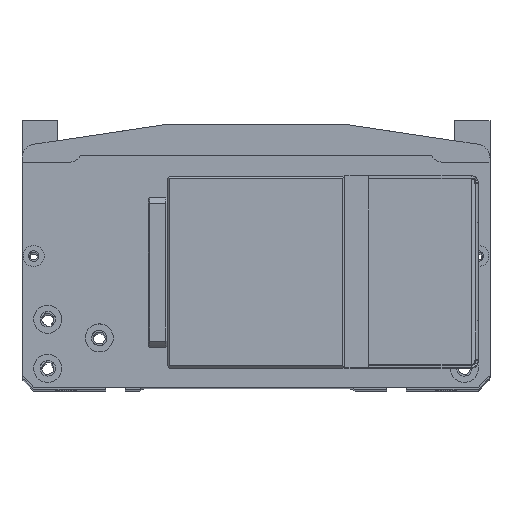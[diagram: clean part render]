
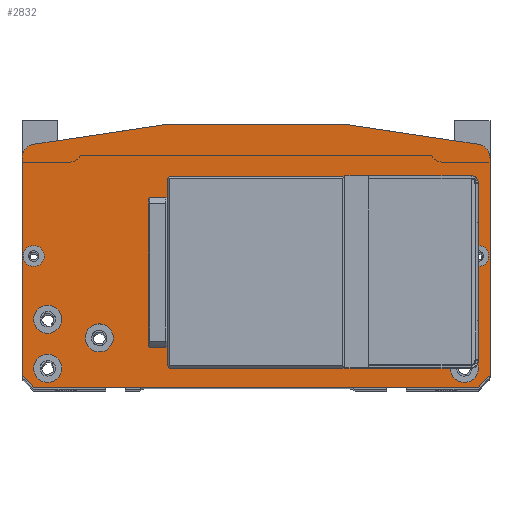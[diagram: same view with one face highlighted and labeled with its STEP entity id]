
A CAD part, top view. The second image highlights one B-rep face of the part: STEP entity #2832.
In plain terms, the highlighted planar face has unit normal (0, 0, 1).
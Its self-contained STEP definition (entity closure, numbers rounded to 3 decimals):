
#568=FACE_BOUND('',#5105,.T.);
#569=FACE_BOUND('',#5106,.T.);
#570=FACE_BOUND('',#5107,.T.);
#571=FACE_BOUND('',#5108,.T.);
#572=FACE_BOUND('',#5109,.T.);
#573=FACE_BOUND('',#5110,.T.);
#574=FACE_BOUND('',#5111,.T.);
#575=FACE_BOUND('',#5112,.T.);
#576=FACE_BOUND('',#5113,.T.);
#577=FACE_BOUND('',#5114,.T.);
#578=FACE_BOUND('',#5115,.T.);
#579=FACE_BOUND('',#5116,.T.);
#580=FACE_BOUND('',#5117,.T.);
#1193=PLANE('',#18530);
#1862=CIRCLE('',#18412,1.65);
#1877=CIRCLE('',#18441,1.65);
#1882=CIRCLE('',#18455,6.);
#1889=CIRCLE('',#18469,6.);
#1890=CIRCLE('',#18472,4.5);
#1894=CIRCLE('',#18479,4.5);
#1898=CIRCLE('',#18486,6.);
#1902=CIRCLE('',#18493,6.);
#1906=CIRCLE('',#18500,6.);
#1910=CIRCLE('',#18507,6.);
#1914=CIRCLE('',#18514,6.);
#1918=CIRCLE('',#18521,6.);
#2832=ADVANCED_FACE('',(#568,#569,#570,#571,#572,#573,#574,#575,#576,#577,
#578,#579,#580),#1193,.F.);
#5105=EDGE_LOOP('',(#11488,#11489,#11490,#11491));
#5106=EDGE_LOOP('',(#11492,#11493,#11494,#11495));
#5107=EDGE_LOOP('',(#11496));
#5108=EDGE_LOOP('',(#11497));
#5109=EDGE_LOOP('',(#11498,#11499,#11500,#11501,#11502,#11503,#11504,#11505,
#11506,#11507));
#5110=EDGE_LOOP('',(#11508));
#5111=EDGE_LOOP('',(#11509));
#5112=EDGE_LOOP('',(#11510));
#5113=EDGE_LOOP('',(#11511));
#5114=EDGE_LOOP('',(#11512));
#5115=EDGE_LOOP('',(#11513));
#5116=EDGE_LOOP('',(#11514));
#5117=EDGE_LOOP('',(#11515));
#5767=LINE('',#25142,#7140);
#5960=LINE('',#26042,#7333);
#5980=LINE('',#26087,#7353);
#6585=LINE('',#30103,#7958);
#6589=LINE('',#30111,#7962);
#6592=LINE('',#30117,#7965);
#6612=LINE('',#30153,#7985);
#6632=LINE('',#30325,#8005);
#6634=LINE('',#30328,#8007);
#6640=LINE('',#30341,#8013);
#6643=LINE('',#30347,#8016);
#6656=LINE('',#30383,#8029);
#6658=LINE('',#30468,#8031);
#6659=LINE('',#30471,#8032);
#6660=LINE('',#30473,#8033);
#6661=LINE('',#30475,#8034);
#7140=VECTOR('',#19644,1.);
#7333=VECTOR('',#20077,1.);
#7353=VECTOR('',#20127,1.);
#7958=VECTOR('',#22180,1.);
#7962=VECTOR('',#22186,1.);
#7965=VECTOR('',#22191,1.);
#7985=VECTOR('',#22223,1.);
#8005=VECTOR('',#22439,1.);
#8007=VECTOR('',#22443,1.);
#8013=VECTOR('',#22451,1.);
#8016=VECTOR('',#22456,1.);
#8029=VECTOR('',#22503,1.);
#8031=VECTOR('',#22623,1.);
#8032=VECTOR('',#22624,1.);
#8033=VECTOR('',#22625,1.);
#8034=VECTOR('',#22626,1.);
#11488=ORIENTED_EDGE('',*,*,#16548,.F.);
#11489=ORIENTED_EDGE('',*,*,#16549,.F.);
#11490=ORIENTED_EDGE('',*,*,#16550,.T.);
#11491=ORIENTED_EDGE('',*,*,#16551,.T.);
#11492=ORIENTED_EDGE('',*,*,#16391,.T.);
#11493=ORIENTED_EDGE('',*,*,#16394,.T.);
#11494=ORIENTED_EDGE('',*,*,#16414,.T.);
#11495=ORIENTED_EDGE('',*,*,#16387,.T.);
#11496=ORIENTED_EDGE('',*,*,#16449,.T.);
#11497=ORIENTED_EDGE('',*,*,#16477,.T.);
#11498=ORIENTED_EDGE('',*,*,#16482,.F.);
#11499=ORIENTED_EDGE('',*,*,#15324,.T.);
#11500=ORIENTED_EDGE('',*,*,#16514,.F.);
#11501=ORIENTED_EDGE('',*,*,#15348,.T.);
#11502=ORIENTED_EDGE('',*,*,#16513,.F.);
#11503=ORIENTED_EDGE('',*,*,#16484,.F.);
#11504=ORIENTED_EDGE('',*,*,#16490,.T.);
#11505=ORIENTED_EDGE('',*,*,#16493,.F.);
#11506=ORIENTED_EDGE('',*,*,#16494,.F.);
#11507=ORIENTED_EDGE('',*,*,#15065,.T.);
#11508=ORIENTED_EDGE('',*,*,#16544,.T.);
#11509=ORIENTED_EDGE('',*,*,#16540,.T.);
#11510=ORIENTED_EDGE('',*,*,#16536,.T.);
#11511=ORIENTED_EDGE('',*,*,#16532,.T.);
#11512=ORIENTED_EDGE('',*,*,#16528,.T.);
#11513=ORIENTED_EDGE('',*,*,#16524,.T.);
#11514=ORIENTED_EDGE('',*,*,#16520,.T.);
#11515=ORIENTED_EDGE('',*,*,#16516,.T.);
#13371=VERTEX_POINT('',#25141);
#13372=VERTEX_POINT('',#25143);
#13536=VERTEX_POINT('',#26041);
#13537=VERTEX_POINT('',#26043);
#13546=VERTEX_POINT('',#26086);
#13547=VERTEX_POINT('',#26088);
#14229=VERTEX_POINT('',#30093);
#14233=VERTEX_POINT('',#30102);
#14236=VERTEX_POINT('',#30110);
#14238=VERTEX_POINT('',#30116);
#14279=VERTEX_POINT('',#30250);
#14296=VERTEX_POINT('',#30309);
#14303=VERTEX_POINT('',#30329);
#14304=VERTEX_POINT('',#30330);
#14308=VERTEX_POINT('',#30340);
#14310=VERTEX_POINT('',#30346);
#14317=VERTEX_POINT('',#30387);
#14320=VERTEX_POINT('',#30397);
#14323=VERTEX_POINT('',#30407);
#14326=VERTEX_POINT('',#30417);
#14329=VERTEX_POINT('',#30427);
#14332=VERTEX_POINT('',#30437);
#14335=VERTEX_POINT('',#30447);
#14338=VERTEX_POINT('',#30457);
#14341=VERTEX_POINT('',#30469);
#14342=VERTEX_POINT('',#30470);
#14343=VERTEX_POINT('',#30472);
#14344=VERTEX_POINT('',#30474);
#15065=EDGE_CURVE('',#13372,#13371,#5767,.T.);
#15324=EDGE_CURVE('',#13537,#13536,#5960,.T.);
#15348=EDGE_CURVE('',#13547,#13546,#5980,.T.);
#16387=EDGE_CURVE('',#14229,#14233,#6585,.T.);
#16391=EDGE_CURVE('',#14233,#14236,#6589,.T.);
#16394=EDGE_CURVE('',#14236,#14238,#6592,.T.);
#16414=EDGE_CURVE('',#14238,#14229,#6612,.T.);
#16449=EDGE_CURVE('',#14279,#14279,#1862,.T.);
#16477=EDGE_CURVE('',#14296,#14296,#1877,.T.);
#16482=EDGE_CURVE('',#13537,#13371,#6632,.T.);
#16484=EDGE_CURVE('',#14303,#14304,#6634,.T.);
#16490=EDGE_CURVE('',#14303,#14308,#6640,.T.);
#16493=EDGE_CURVE('',#14310,#14308,#6643,.T.);
#16494=EDGE_CURVE('',#13372,#14310,#1882,.T.);
#16513=EDGE_CURVE('',#14304,#13546,#1889,.T.);
#16514=EDGE_CURVE('',#13547,#13536,#6656,.T.);
#16516=EDGE_CURVE('',#14317,#14317,#1890,.T.);
#16520=EDGE_CURVE('',#14320,#14320,#1894,.T.);
#16524=EDGE_CURVE('',#14323,#14323,#1898,.T.);
#16528=EDGE_CURVE('',#14326,#14326,#1902,.T.);
#16532=EDGE_CURVE('',#14329,#14329,#1906,.T.);
#16536=EDGE_CURVE('',#14332,#14332,#1910,.T.);
#16540=EDGE_CURVE('',#14335,#14335,#1914,.T.);
#16544=EDGE_CURVE('',#14338,#14338,#1918,.T.);
#16548=EDGE_CURVE('',#14341,#14342,#6658,.T.);
#16549=EDGE_CURVE('',#14343,#14341,#6659,.T.);
#16550=EDGE_CURVE('',#14343,#14344,#6660,.T.);
#16551=EDGE_CURVE('',#14344,#14342,#6661,.T.);
#18412=AXIS2_PLACEMENT_3D('',#30249,#22348,#22349);
#18441=AXIS2_PLACEMENT_3D('',#30308,#22419,#22420);
#18455=AXIS2_PLACEMENT_3D('',#30349,#22459,#22460);
#18469=AXIS2_PLACEMENT_3D('',#30381,#22499,#22500);
#18472=AXIS2_PLACEMENT_3D('',#30386,#22507,#22508);
#18479=AXIS2_PLACEMENT_3D('',#30396,#22521,#22522);
#18486=AXIS2_PLACEMENT_3D('',#30406,#22535,#22536);
#18493=AXIS2_PLACEMENT_3D('',#30416,#22549,#22550);
#18500=AXIS2_PLACEMENT_3D('',#30426,#22563,#22564);
#18507=AXIS2_PLACEMENT_3D('',#30436,#22577,#22578);
#18514=AXIS2_PLACEMENT_3D('',#30446,#22591,#22592);
#18521=AXIS2_PLACEMENT_3D('',#30456,#22605,#22606);
#18530=AXIS2_PLACEMENT_3D('',#30476,#22627,#22628);
#19644=DIRECTION('',(0.,-1.,0.));
#20077=DIRECTION('',(1.,0.,0.));
#20127=DIRECTION('',(0.,1.,0.));
#22180=DIRECTION('',(0.,1.,0.));
#22186=DIRECTION('',(1.,0.,0.));
#22191=DIRECTION('',(0.,-1.,0.));
#22223=DIRECTION('',(-1.,0.,0.));
#22348=DIRECTION('',(0.,0.,-1.));
#22349=DIRECTION('',(1.,0.,0.));
#22419=DIRECTION('',(0.,0.,-1.));
#22420=DIRECTION('',(1.,0.,0.));
#22439=DIRECTION('',(-0.707,0.707,0.));
#22443=DIRECTION('',(0.989,-0.148,0.));
#22451=DIRECTION('',(-1.,0.,0.));
#22456=DIRECTION('',(0.989,0.148,0.));
#22459=DIRECTION('',(0.,0.,-1.));
#22460=DIRECTION('',(-1.,0.,0.));
#22499=DIRECTION('',(0.,0.,-1.));
#22500=DIRECTION('',(0.148,0.989,0.));
#22503=DIRECTION('',(-0.707,-0.707,0.));
#22507=DIRECTION('',(0.,0.,-1.));
#22508=DIRECTION('',(1.,0.,0.));
#22521=DIRECTION('',(0.,0.,-1.));
#22522=DIRECTION('',(1.,0.,0.));
#22535=DIRECTION('',(0.,0.,-1.));
#22536=DIRECTION('',(1.,0.,0.));
#22549=DIRECTION('',(0.,0.,-1.));
#22550=DIRECTION('',(1.,0.,0.));
#22563=DIRECTION('',(0.,0.,-1.));
#22564=DIRECTION('',(1.,0.,0.));
#22577=DIRECTION('',(0.,0.,-1.));
#22578=DIRECTION('',(1.,0.,0.));
#22591=DIRECTION('',(0.,0.,-1.));
#22592=DIRECTION('',(1.,0.,0.));
#22605=DIRECTION('',(0.,0.,-1.));
#22606=DIRECTION('',(1.,0.,0.));
#22623=DIRECTION('',(1.,0.,0.));
#22624=DIRECTION('',(0.,-1.,0.));
#22625=DIRECTION('',(1.,0.,0.));
#22626=DIRECTION('',(0.,-1.,0.));
#22627=DIRECTION('',(0.,0.,-1.));
#22628=DIRECTION('',(-1.,0.,0.));
#25141=CARTESIAN_POINT('',(-100.,7.,463.));
#25142=CARTESIAN_POINT('',(-100.,99.833,463.));
#25143=CARTESIAN_POINT('',(-100.,99.833,463.));
#26041=CARTESIAN_POINT('',(95.,2.,463.));
#26042=CARTESIAN_POINT('',(67.5,2.,463.));
#26043=CARTESIAN_POINT('',(-95.,2.,463.));
#26086=CARTESIAN_POINT('',(100.,99.833,463.));
#26087=CARTESIAN_POINT('',(100.,7.,463.));
#26088=CARTESIAN_POINT('',(100.,7.,463.));
#30093=CARTESIAN_POINT('',(-37.,11.,463.));
#30102=CARTESIAN_POINT('',(-37.,91.,463.));
#30103=CARTESIAN_POINT('',(-37.,11.,463.));
#30110=CARTESIAN_POINT('',(37.,91.,463.));
#30111=CARTESIAN_POINT('',(-37.,91.,463.));
#30116=CARTESIAN_POINT('',(37.,11.,463.));
#30117=CARTESIAN_POINT('',(37.,91.,463.));
#30153=CARTESIAN_POINT('',(37.,11.,463.));
#30249=CARTESIAN_POINT('',(42.,69.,463.));
#30250=CARTESIAN_POINT('',(43.65,69.,463.));
#30308=CARTESIAN_POINT('',(42.,33.,463.));
#30309=CARTESIAN_POINT('',(43.65,33.,463.));
#30325=CARTESIAN_POINT('',(-95.,2.,463.));
#30328=CARTESIAN_POINT('',(40.,114.,463.));
#30329=CARTESIAN_POINT('',(40.,114.,463.));
#30330=CARTESIAN_POINT('',(94.89,105.766,463.));
#30340=CARTESIAN_POINT('',(-40.,114.,463.));
#30341=CARTESIAN_POINT('',(40.,114.,463.));
#30346=CARTESIAN_POINT('',(-94.89,105.766,463.));
#30347=CARTESIAN_POINT('',(-94.89,105.766,463.));
#30349=CARTESIAN_POINT('',(-94.,99.833,463.));
#30381=CARTESIAN_POINT('',(94.,99.833,463.));
#30383=CARTESIAN_POINT('',(100.,7.,463.));
#30386=CARTESIAN_POINT('',(-95.,58.,463.));
#30387=CARTESIAN_POINT('',(-90.5,58.,463.));
#30396=CARTESIAN_POINT('',(95.,58.,463.));
#30397=CARTESIAN_POINT('',(99.5,58.,463.));
#30406=CARTESIAN_POINT('',(-67.,23.,463.));
#30407=CARTESIAN_POINT('',(-61.,23.,463.));
#30416=CARTESIAN_POINT('',(67.,23.,463.));
#30417=CARTESIAN_POINT('',(73.,23.,463.));
#30426=CARTESIAN_POINT('',(-89.,31.,463.));
#30427=CARTESIAN_POINT('',(-83.,31.,463.));
#30436=CARTESIAN_POINT('',(89.,31.,463.));
#30437=CARTESIAN_POINT('',(95.,31.,463.));
#30446=CARTESIAN_POINT('',(-89.,10.,463.));
#30447=CARTESIAN_POINT('',(-83.,10.,463.));
#30456=CARTESIAN_POINT('',(89.,10.,463.));
#30457=CARTESIAN_POINT('',(95.,10.,463.));
#30468=CARTESIAN_POINT('',(-45.5,21.534,463.));
#30469=CARTESIAN_POINT('',(-45.5,21.534,463.));
#30470=CARTESIAN_POINT('',(-38.5,21.534,463.));
#30471=CARTESIAN_POINT('',(-45.5,80.466,463.));
#30472=CARTESIAN_POINT('',(-45.5,80.466,463.));
#30473=CARTESIAN_POINT('',(-45.5,80.466,463.));
#30474=CARTESIAN_POINT('',(-38.5,80.466,463.));
#30475=CARTESIAN_POINT('',(-38.5,80.466,463.));
#30476=CARTESIAN_POINT('',(0.,2.,463.));
